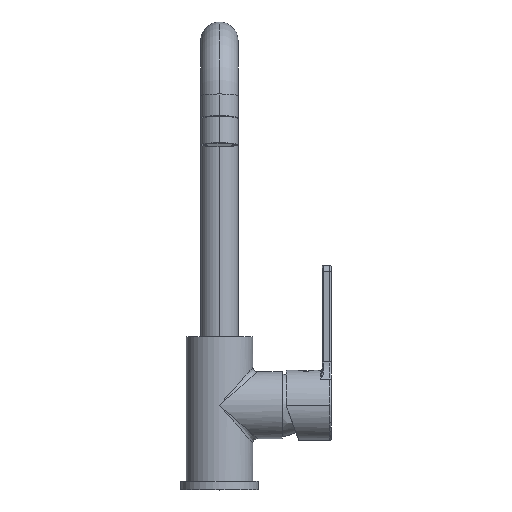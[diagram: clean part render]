
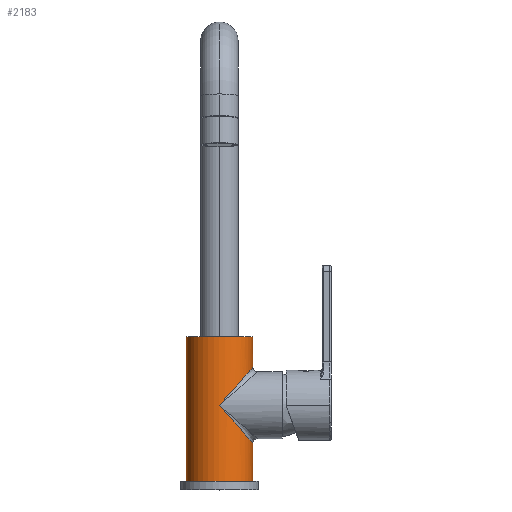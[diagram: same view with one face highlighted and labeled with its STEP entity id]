
A CAD part, top view. The second image highlights one B-rep face of the part: STEP entity #2183.
In plain terms, the highlighted cylindrical face has radius 21.5 mm (diameter 43 mm), a partial arc.
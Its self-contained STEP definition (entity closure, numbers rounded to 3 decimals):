
#152=(
BOUNDED_CURVE()
B_SPLINE_CURVE(3,(#34378,#34379,#34380,#34381,#34382,#34383,#34384,#34385,
#34386,#34387,#34388,#34389,#34390,#34391,#34392,#34393,#34394,#34395,#34396,
#34397,#34398,#34399,#34400),.UNSPECIFIED.,.F.,.F.)
B_SPLINE_CURVE_WITH_KNOTS((4,1,1,1,1,1,1,1,1,1,1,1,1,1,1,1,1,1,1,1,4),(0.,
0.064,0.12,0.171,0.221,0.275,
0.331,0.384,0.434,0.482,0.532,
0.58,0.625,0.668,0.714,0.76,
0.804,0.847,0.894,0.945,1.),
 .UNSPECIFIED.)
CURVE()
GEOMETRIC_REPRESENTATION_ITEM()
RATIONAL_B_SPLINE_CURVE((1.172,1.172,1.172,
1.172,1.172,1.172,1.172,1.172,
1.172,1.172,1.172,1.172,1.172,
1.172,1.172,1.172,1.172,1.172,
1.172,1.172,1.172,1.172,1.172))
REPRESENTATION_ITEM('')
);
#347=CYLINDRICAL_SURFACE('',#19965,21.5);
#973=CIRCLE('',#19963,21.5);
#974=CIRCLE('',#19964,21.5);
#1588=B_SPLINE_CURVE_WITH_KNOTS('',3,(#34222,#34223,#34224,#34225,#34226,
#34227,#34228,#34229,#34230,#34231,#34232,#34233,#34234,#34235,#34236,#34237,
#34238,#34239,#34240,#34241,#34242,#34243,#34244,#34245,#34246,#34247,#34248,
#34249,#34250,#34251,#34252,#34253,#34254,#34255,#34256,#34257,#34258),
 .UNSPECIFIED.,.F.,.F.,(4,1,1,1,1,1,1,1,1,1,1,1,1,1,1,1,1,1,1,1,1,1,1,1,
1,1,1,1,1,1,1,1,1,1,4),(0.,0.029,0.059,0.088,
0.118,0.147,0.176,0.206,0.235,
0.265,0.294,0.324,0.353,0.382,
0.412,0.441,0.471,0.5,0.529,0.559,
0.588,0.618,0.647,0.676,0.706,
0.735,0.765,0.794,0.824,0.853,
0.882,0.912,0.941,0.971,1.),
 .UNSPECIFIED.);
#2183=ADVANCED_FACE('',(#3887),#347,.T.);
#3887=FACE_OUTER_BOUND('',#4990,.T.);
#4990=EDGE_LOOP('',(#8464,#8465,#8466,#8467,#8468,#8469,#8470));
#8464=ORIENTED_EDGE('',*,*,#14410,.T.);
#8465=ORIENTED_EDGE('',*,*,#14411,.F.);
#8466=ORIENTED_EDGE('',*,*,#14409,.F.);
#8467=ORIENTED_EDGE('',*,*,#14412,.T.);
#8468=ORIENTED_EDGE('',*,*,#14413,.F.);
#8469=ORIENTED_EDGE('',*,*,#14414,.F.);
#8470=ORIENTED_EDGE('',*,*,#14415,.T.);
#12183=VERTEX_POINT('',#34082);
#12184=VERTEX_POINT('',#34221);
#12185=VERTEX_POINT('',#34376);
#12186=VERTEX_POINT('',#34377);
#12187=VERTEX_POINT('',#34402);
#12188=VERTEX_POINT('',#34404);
#12189=VERTEX_POINT('',#34406);
#14409=EDGE_CURVE('',#12183,#12184,#1588,.T.);
#14410=EDGE_CURVE('',#12185,#12186,#16686,.T.);
#14411=EDGE_CURVE('',#12184,#12186,#152,.T.);
#14412=EDGE_CURVE('',#12183,#12187,#16687,.T.);
#14413=EDGE_CURVE('',#12188,#12187,#973,.T.);
#14414=EDGE_CURVE('',#12189,#12188,#16688,.T.);
#14415=EDGE_CURVE('',#12189,#12185,#974,.T.);
#16686=LINE('',#34375,#18501);
#16687=LINE('',#34401,#18502);
#16688=LINE('',#34405,#18503);
#18501=VECTOR('',#23411,1.);
#18502=VECTOR('',#23412,1.);
#18503=VECTOR('',#23415,1.);
#19963=AXIS2_PLACEMENT_3D('',#34403,#23413,#23414);
#19964=AXIS2_PLACEMENT_3D('',#34407,#23416,#23417);
#19965=AXIS2_PLACEMENT_3D('',#34408,#23418,#23419);
#23411=DIRECTION('',(0.,1.,0.));
#23412=DIRECTION('',(0.,1.,0.));
#23413=DIRECTION('',(0.,1.,0.));
#23414=DIRECTION('',(-1.,0.,0.));
#23415=DIRECTION('',(0.,1.,0.));
#23416=DIRECTION('',(0.,1.,0.));
#23417=DIRECTION('',(-1.,0.,0.));
#23418=DIRECTION('',(0.,1.,0.));
#23419=DIRECTION('',(-1.,0.,0.));
#34082=CARTESIAN_POINT('',(21.5,79.,0.));
#34221=CARTESIAN_POINT('',(0.,54.5,21.5));
#34222=CARTESIAN_POINT('',(21.5,79.,0.));
#34223=CARTESIAN_POINT('',(21.5,79.,0.252));
#34224=CARTESIAN_POINT('',(21.491,78.99,0.757));
#34225=CARTESIAN_POINT('',(21.451,78.944,1.515));
#34226=CARTESIAN_POINT('',(21.384,78.868,2.276));
#34227=CARTESIAN_POINT('',(21.289,78.76,3.037));
#34228=CARTESIAN_POINT('',(21.166,78.619,3.801));
#34229=CARTESIAN_POINT('',(21.014,78.446,4.568));
#34230=CARTESIAN_POINT('',(20.832,78.239,5.337));
#34231=CARTESIAN_POINT('',(20.619,77.996,6.109));
#34232=CARTESIAN_POINT('',(20.373,77.716,6.885));
#34233=CARTESIAN_POINT('',(20.094,77.398,7.663));
#34234=CARTESIAN_POINT('',(19.779,77.039,8.444));
#34235=CARTESIAN_POINT('',(19.426,76.637,9.226));
#34236=CARTESIAN_POINT('',(19.035,76.191,10.01));
#34237=CARTESIAN_POINT('',(18.602,75.697,10.793));
#34238=CARTESIAN_POINT('',(18.126,75.155,11.575));
#34239=CARTESIAN_POINT('',(17.605,74.562,12.354));
#34240=CARTESIAN_POINT('',(17.037,73.914,13.126));
#34241=CARTESIAN_POINT('',(16.42,73.212,13.891));
#34242=CARTESIAN_POINT('',(15.753,72.451,14.644));
#34243=CARTESIAN_POINT('',(15.034,71.632,15.382));
#34244=CARTESIAN_POINT('',(14.262,70.752,16.101));
#34245=CARTESIAN_POINT('',(13.436,69.811,16.796));
#34246=CARTESIAN_POINT('',(12.557,68.809,17.464));
#34247=CARTESIAN_POINT('',(11.624,67.746,18.099));
#34248=CARTESIAN_POINT('',(10.639,66.623,18.695));
#34249=CARTESIAN_POINT('',(9.604,65.444,19.248));
#34250=CARTESIAN_POINT('',(8.521,64.21,19.752));
#34251=CARTESIAN_POINT('',(7.394,62.925,20.201));
#34252=CARTESIAN_POINT('',(6.226,61.595,20.591));
#34253=CARTESIAN_POINT('',(5.025,60.226,20.917));
#34254=CARTESIAN_POINT('',(3.794,58.824,21.175));
#34255=CARTESIAN_POINT('',(2.542,57.397,21.362));
#34256=CARTESIAN_POINT('',(1.275,55.952,21.475));
#34257=CARTESIAN_POINT('',(0.426,54.985,21.5));
#34258=CARTESIAN_POINT('',(0.,54.5,21.5));
#34375=CARTESIAN_POINT('',(21.5,5.5,0.));
#34376=CARTESIAN_POINT('',(21.5,5.5,0.));
#34377=CARTESIAN_POINT('',(21.5,30.,0.));
#34378=CARTESIAN_POINT('',(0.,54.5,21.5));
#34379=CARTESIAN_POINT('',(0.606,53.81,21.5));
#34380=CARTESIAN_POINT('',(1.748,52.508,21.452));
#34381=CARTESIAN_POINT('',(3.372,50.657,21.253));
#34382=CARTESIAN_POINT('',(4.863,48.958,20.96));
#34383=CARTESIAN_POINT('',(6.32,47.298,20.569));
#34384=CARTESIAN_POINT('',(7.803,45.608,20.056));
#34385=CARTESIAN_POINT('',(9.291,43.912,19.412));
#34386=CARTESIAN_POINT('',(10.715,42.29,18.662));
#34387=CARTESIAN_POINT('',(12.046,40.773,17.831));
#34388=CARTESIAN_POINT('',(13.309,39.334,16.91));
#34389=CARTESIAN_POINT('',(14.518,37.956,15.885));
#34390=CARTESIAN_POINT('',(15.648,36.669,14.772));
#34391=CARTESIAN_POINT('',(16.677,35.496,13.599));
#34392=CARTESIAN_POINT('',(17.625,34.416,12.347));
#34393=CARTESIAN_POINT('',(18.513,33.403,10.975));
#34394=CARTESIAN_POINT('',(19.322,32.482,9.483));
#34395=CARTESIAN_POINT('',(20.019,31.688,7.905));
#34396=CARTESIAN_POINT('',(20.605,31.02,6.228));
#34397=CARTESIAN_POINT('',(21.082,30.476,4.374));
#34398=CARTESIAN_POINT('',(21.418,30.093,2.276));
#34399=CARTESIAN_POINT('',(21.5,30.,0.778));
#34400=CARTESIAN_POINT('',(21.5,30.,0.));
#34401=CARTESIAN_POINT('',(21.5,79.,0.));
#34402=CARTESIAN_POINT('',(21.5,98.5,0.));
#34403=CARTESIAN_POINT('',(0.,98.5,0.));
#34404=CARTESIAN_POINT('',(-21.5,98.5,0.));
#34405=CARTESIAN_POINT('',(-21.5,5.5,0.));
#34406=CARTESIAN_POINT('',(-21.5,5.5,0.));
#34407=CARTESIAN_POINT('',(0.,5.5,0.));
#34408=CARTESIAN_POINT('',(0.,5.5,0.));
